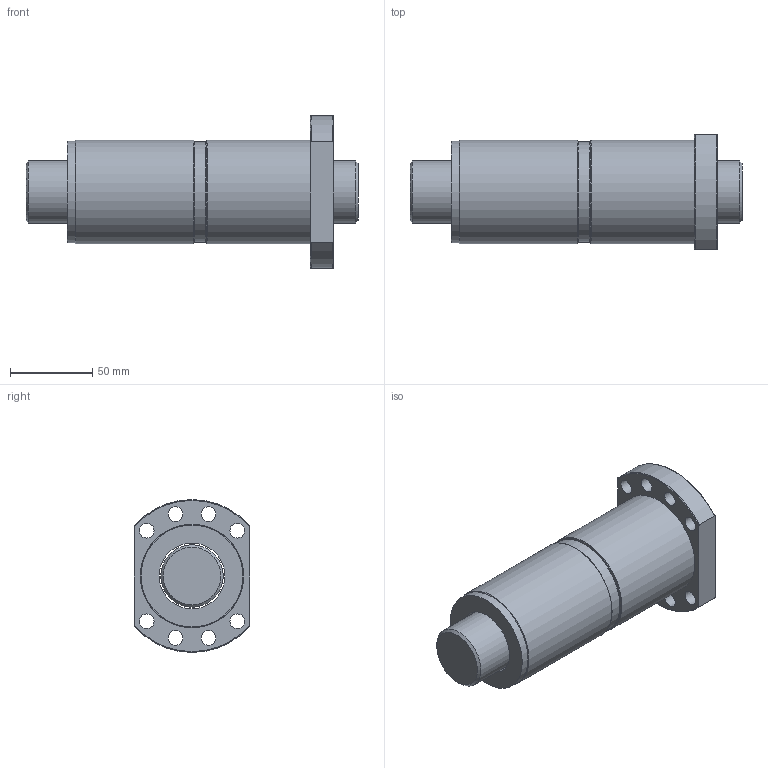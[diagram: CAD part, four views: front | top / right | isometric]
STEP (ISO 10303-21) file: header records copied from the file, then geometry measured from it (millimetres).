
FILE_DESCRIPTION(/* description */ (''),/* implementation_level */ '2;1');
FILE_NAME(/* name */ 'DFS4020',/* time_stamp */ '2007-10-26T13:51:03+08:00',/* author */ (''),/* organization */ (''),/* preprocessor_version */ 'ST-DEVELOPER v9',/* originating_system */ 'UGS - NX 3.0',/* authorisation */ '');
FILE_SCHEMA (('CONFIG_CONTROL_DESIGN'));
Length unit declared in the file: millimetre
Products named in the file (1): jaso15A4i337
Bounding box: 202 x 70 x 93 mm (x, y, z)
Volume: 567792 mm3; surface area: 111927 mm2
Topology: 7 solids, 7 shells, 53 faces, 112 edges, 75 vertices
Faces by surface type: cylinder 24, plane 18, torus 9, cone 2
Full cylindrical faces by diameter (mm): 9 x8, 38 x1, 40 x6, 61.004 x1, 62 x4, 63 x2
Entity records: 1494 total; most frequent: CARTESIAN_POINT 340, DIRECTION 234, ORIENTED_EDGE 150, AXIS2_PLACEMENT_3D 113, EDGE_LOOP 112, FACE_BOUND 86, EDGE_CURVE 75, VERTEX_POINT 67
